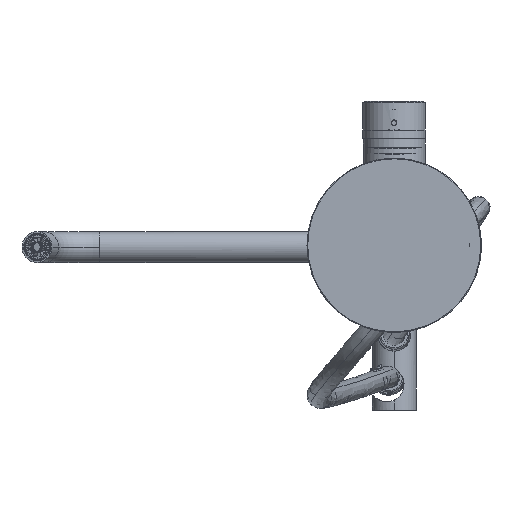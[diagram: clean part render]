
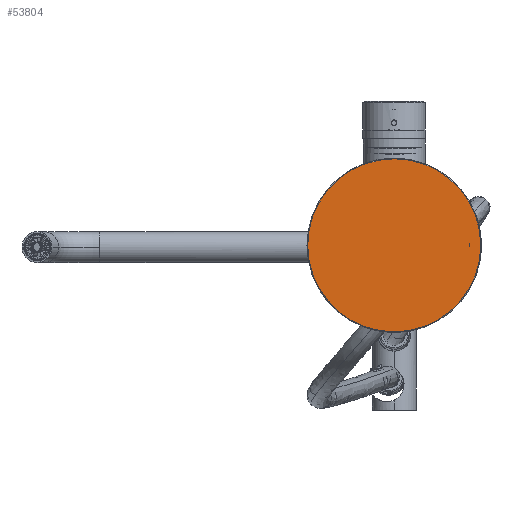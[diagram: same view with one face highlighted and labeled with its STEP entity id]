
A CAD part, top view. The second image highlights one B-rep face of the part: STEP entity #53804.
In plain terms, the highlighted planar face has unit normal (0, 0, 1).
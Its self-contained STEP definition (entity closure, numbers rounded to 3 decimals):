
#12985=CARTESIAN_POINT('',(-10.144,17.948,638.5));
#12986=DIRECTION('',(0.,0.,1.));
#12987=DIRECTION('',(0.,1.,0.));
#12988=AXIS2_PLACEMENT_3D('',#12985,#12986,#12987);
#12990=CARTESIAN_POINT('',(-10.144,17.948,638.5));
#12991=DIRECTION('',(0.,0.,1.));
#12992=DIRECTION('',(0.,-1.,0.));
#12993=AXIS2_PLACEMENT_3D('',#12990,#12991,#12992);
#44373=CARTESIAN_POINT('',(-10.144,-41.552,638.5));
#44374=CARTESIAN_POINT('',(-10.144,77.448,638.5));
#44375=VERTEX_POINT('',#44373);
#44376=VERTEX_POINT('',#44374);
#53795=CARTESIAN_POINT('',(40.856,17.948,638.5));
#53796=DIRECTION('',(0.,0.,1.));
#53797=DIRECTION('',(0.,-1.,0.));
#53798=AXIS2_PLACEMENT_3D('',#53795,#53796,#53797);
#53799=PLANE('',#53798);
#53800=ORIENTED_EDGE('',*,*,#53763,.F.);
#53801=ORIENTED_EDGE('',*,*,#53780,.F.);
#53802=EDGE_LOOP('',(#53800,#53801));
#53803=FACE_OUTER_BOUND('',#53802,.F.);
#12989=CIRCLE('',#12988,59.5);
#12994=CIRCLE('',#12993,59.5);
#53763=EDGE_CURVE('',#44376,#44375,#12989,.T.);
#53780=EDGE_CURVE('',#44375,#44376,#12994,.T.);
#53804=ADVANCED_FACE('',(#53803),#53799,.T.);
